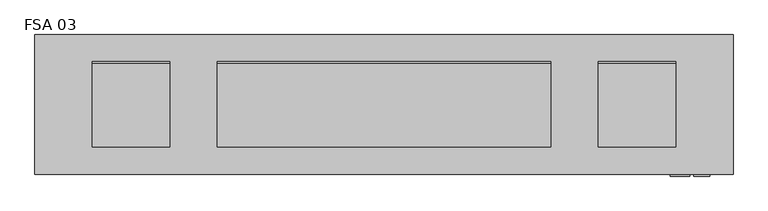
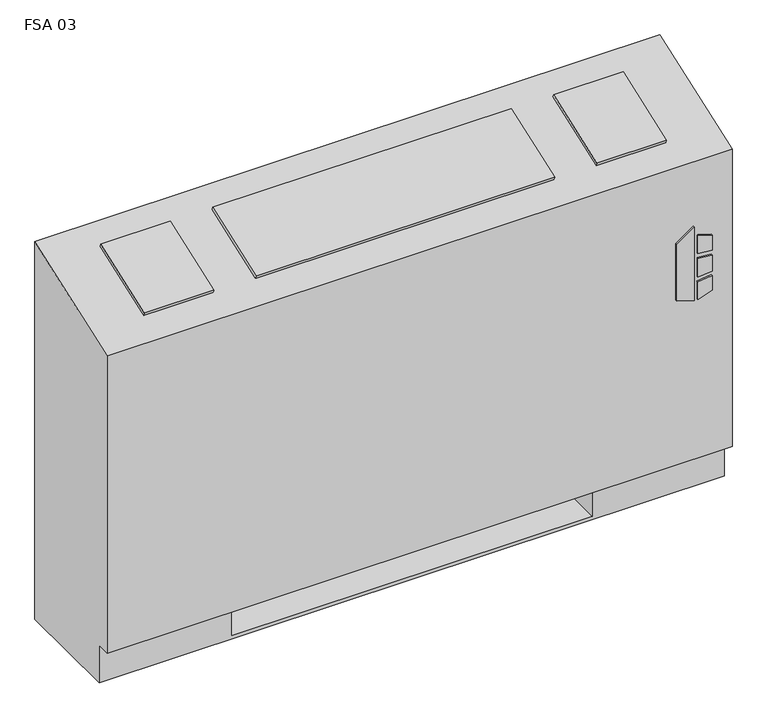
"""IFC4 building model written with IfcOpenShell, lengths in millimetres: proxy geometry, Vertical_Fan_Coil_Unit_-_FSA_-_IEC_-_4-Pipe_TS-FR_LH_2022 : FSA 03."""

from ifc_helpers import new_model, si_unit, point, frame, frame_2d, origin, place, context, project, spatial, polyline, circle_curve, trimmed, segment, composite_curve, outline, extrude, source, transform, mapped, element, save
from ifc_brep_helpers import plane_surface, revolved_surface, advanced_brep


def fsa_03_7127c263(model_context):
    return source(origin(), model_context, "Body", "SolidModel", [
        extrude(outline(polyline([(391.6086829, 620.7868862), (381.6606126, 652.9602728), (523.831537, 652.9602728), (500.8095309, 620.7868862), (391.6086829, 620.7868862)])), frame((0.0, 12.7, 0.0), z_axis=(0.0, 1.0, 0.0), x_axis=(0.0, 0.0, 1.0)), (0.0, 0.0, 1.0), 3.175),
        extrude(outline(polyline([(470.6079683, 659.7186058), (467.4055757, 685.8), (496.6344168, 685.8), (504.6988318, 659.7186058), (470.6079683, 659.7186058)])), frame((0.0, 12.7, 0.0), z_axis=(0.0, 1.0, 0.0), x_axis=(0.0, 0.0, 1.0)), (0.0, 0.0, 1.0), 3.175),
        extrude(outline(polyline([(418.7444414, 685.8), (415.0789404, 659.7186058), (381.6606126, 659.7186058), (390.2948498, 685.8), (418.7444414, 685.8)])), frame((0.0, 12.7, 0.0), z_axis=(0.0, 1.0, 0.0), x_axis=(0.0, 0.0, 1.0)), (0.0, 0.0, 1.0), 3.175),
        extrude(outline(polyline([(458.0596028, 685.8), (460.3414292, 659.7186058), (424.4038806, 659.7186058), (427.1451456, 685.8), (458.0596028, 685.8)])), frame((0.0, 12.7, 0.0), z_axis=(0.0, 1.0, 0.0), x_axis=(0.0, 0.0, 1.0)), (0.0, 0.0, 1.0), 3.175),
        extrude(outline(polyline([(603.25, 223.266), (603.25, 81.534), (482.6, 81.534), (482.6, 223.266), (603.25, 223.266)])), frame((0.0, 0.0, 327.025), z_axis=(0.0, 0.0, 1.0), x_axis=(1.0, 0.0, 0.0)), (0.0, 0.0, 1.0), 260.35),
        extrude(outline(composite_curve([segment(trimmed(circle_curve(frame_2d((-241.3, 130.175)), 9.525), [point((-250.825, 130.175))], [point((-231.775, 130.175))], False, "CARTESIAN"), True, "CONTINUOUS"), segment(trimmed(circle_curve(frame_2d((-241.3, 130.175)), 9.525), [point((-231.775, 130.175))], [point((-250.825, 130.175))], False, "CARTESIAN"), True, "CONTINUOUS")], self_intersect=False)), frame((0.0, 0.0, 101.6), z_axis=(0.0, 0.0, 1.0), x_axis=(1.0, 0.0, 0.0)), (0.0, 0.0, 1.0), 25.4),
        extrude(outline(polyline([(-342.9, 63.5), (-342.9, 196.85), (-177.8, 196.85), (-177.8, 63.5), (-342.9, 63.5)])), frame((0.0, 0.0, 127.0), z_axis=(0.0, 0.0, 1.0), x_axis=(1.0, 0.0, 0.0)), (0.0, 0.0, 1.0), 50.8),
        extrude(outline(polyline([(0.0, -146.0500001), (0.0, 0.0), (127.0, 0.0), (127.0, -146.0500001), (0.0, -146.0500001)])), frame((-324.993, 200.4217127, 714.3418685), z_axis=(0.0, -0.3396444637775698, 0.9405538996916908), x_axis=(1.0, 0.0, 0.0)), (0.0, 0.0, 1.0), 6.35),
        extrude(outline(polyline([(0.0, -146.0500001), (0.0, 0.0), (546.1, 0.0), (546.1, -146.0500001), (0.0, -146.0500001)])), frame((425.45, 63.0538156, 664.7367945), z_axis=(0.0, -0.33964446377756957, 0.9405538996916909), x_axis=(-1.0, 0.0, 0.0)), (0.0, 0.0, 1.0), 6.35),
        extrude(outline(polyline([(0.0, -146.0500001), (0.0, 0.0), (127.0, 0.0), (127.0, -146.0500001), (0.0, -146.0500001)])), frame((629.793, 63.0538156, 664.7367945), z_axis=(0.0, -0.3396444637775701, 0.9405538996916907), x_axis=(-1.0, 0.0, 0.0)), (0.0, 0.0, 1.0), 6.35),
        extrude(outline(composite_curve([segment(trimmed(circle_curve(frame_2d((117.475, 472.44)), 7.9375), [point((117.475, 480.3775))], [point((117.475, 464.5025))], False, "CARTESIAN"), True, "CONTINUOUS"), segment(trimmed(circle_curve(frame_2d((117.475, 472.44)), 7.9375), [point((117.475, 464.5025))], [point((117.475, 480.3775))], False, "CARTESIAN"), True, "CONTINUOUS")], self_intersect=False)), frame((-228.6, 0.0, 0.0), z_axis=(1.0, 0.0, 0.0), x_axis=(0.0, 1.0, 0.0)), (0.0, 0.0, 1.0), 50.8),
        extrude(outline(composite_curve([segment(trimmed(circle_curve(frame_2d((164.0586, 445.897)), 7.9375), [point((164.0586, 453.8345))], [point((164.0586, 437.9595))], False, "CARTESIAN"), True, "CONTINUOUS"), segment(trimmed(circle_curve(frame_2d((164.0586, 445.897)), 7.9375), [point((164.0586, 437.9595))], [point((164.0586, 453.8345))], False, "CARTESIAN"), True, "CONTINUOUS")], self_intersect=False)), frame((-228.6, 0.0, 0.0), z_axis=(1.0, 0.0, 0.0), x_axis=(0.0, 1.0, 0.0)), (0.0, 0.0, 1.0), 50.8),
        extrude(outline(composite_curve([segment(trimmed(circle_curve(frame_2d((130.175, 554.99)), 7.9502), [point((130.175, 562.9402))], [point((130.175, 547.0398))], False, "CARTESIAN"), True, "CONTINUOUS"), segment(trimmed(circle_curve(frame_2d((130.175, 554.99)), 7.9502), [point((130.175, 547.0398))], [point((130.175, 562.9402))], False, "CARTESIAN"), True, "CONTINUOUS")], self_intersect=False)), frame((-228.6, 0.0, 0.0), z_axis=(1.0, 0.0, 0.0), x_axis=(0.0, 1.0, 0.0)), (0.0, 0.0, 1.0), 50.8),
        extrude(outline(composite_curve([segment(trimmed(circle_curve(frame_2d((53.975, 416.56)), 7.9502), [point((53.975, 424.5102))], [point((53.975, 408.6098))], False, "CARTESIAN"), True, "CONTINUOUS"), segment(trimmed(circle_curve(frame_2d((53.975, 416.56)), 7.9502), [point((53.975, 408.6098))], [point((53.975, 424.5102))], False, "CARTESIAN"), True, "CONTINUOUS")], self_intersect=False)), frame((-228.6, 0.0, 0.0), z_axis=(1.0, 0.0, 0.0), x_axis=(0.0, 1.0, 0.0)), (0.0, 0.0, 1.0), 50.8),
        advanced_brep(
        [(-419.1, 244.475, 0.0), (723.9, 244.475, 0.0), (723.9, 41.275, 0.0), (-419.1, 41.275, 0.0), (-419.1, 244.475, 730.25), (723.9, 244.475, 730.25), (482.6, 244.475, 73.025), (711.2, 244.475, 73.025), (711.2, 244.475, 654.05), (482.6, 244.475, 654.05), (482.6, 244.475, 414.8650565), (511.175, 244.475, 414.8650565), (511.175, 244.475, 385.2349435), (482.6, 244.475, 385.2349435), (482.6, 244.475, 287.3375), (511.175, 244.475, 287.3375), (511.175, 244.475, 258.7625), (482.6, 244.475, 258.7625), (482.6, 244.475, 141.2875), (511.175, 244.475, 141.2875), (511.175, 244.475, 112.7125), (482.6, 244.475, 112.7125), (-177.8, 244.475, 654.05), (-406.4, 244.475, 654.05), (-406.4, 244.475, 73.025), (-177.8, 244.475, 73.025), (-177.8, 244.475, 112.7125), (-206.375, 244.475, 112.7125), (-206.375, 244.475, 141.2875), (-177.8, 244.475, 141.2875), (-177.8, 244.475, 258.7625), (-206.375, 244.475, 258.7625), (-206.375, 244.475, 287.3375), (-177.8, 244.475, 287.3375), (-177.8, 244.475, 385.2349435), (-206.375, 244.475, 385.2349435), (-206.375, 244.475, 414.8650565), (-177.8, 244.475, 414.8650565), (500.8626, 244.475, 127.0), (489.7374, 244.475, 127.0), (500.8626, 244.475, 400.05), (489.7374, 244.475, 400.05), (500.8626, 244.475, 273.05), (489.7374, 244.475, 273.05), (-184.9374, 244.475, 127.0), (-196.0626, 244.475, 127.0), (-184.9374, 244.475, 273.05), (-196.0626, 244.475, 273.05), (-184.9374, 244.475, 400.05), (-196.0626, 244.475, 400.05), (-419.1, 41.275, 73.025), (-419.1, 15.875, 73.025), (-419.1, 15.875, 647.7), (723.9, 15.875, 73.025), (723.9, 15.875, 647.7), (723.9, 41.275, 73.025), (-177.8, 41.275, 73.025), (-177.8, 225.425, 73.025), (482.6, 225.425, 73.025), (482.6, 41.275, 73.025), (482.6, 41.275, 6.35), (-177.8, 41.275, 6.35), (482.6, 41.275, 654.05), (711.2, 41.275, 654.05), (711.2, 41.275, 73.025), (482.6, 41.275, 73.025), (-177.8, 41.275, 654.05), (-177.8, 41.275, 73.025), (-406.4, 41.275, 73.025), (-406.4, 41.275, 654.05), (482.6, 225.425, 73.025), (482.6, 238.125, 112.7125), (482.6, 238.125, 141.2875), (482.6, 238.125, 258.7625), (482.6, 238.125, 287.3375), (482.6, 238.125, 385.2349435), (482.6, 238.125, 414.8650565), (-177.8, 225.425, 73.025), (-177.8, 238.125, 414.8650565), (-177.8, 238.125, 385.2349435), (-177.8, 238.125, 287.3375), (-177.8, 238.125, 258.7625), (-177.8, 238.125, 141.2875), (-177.8, 238.125, 112.7125), (-177.8, 225.425, 6.35), (482.6, 225.425, 6.35), (511.175, 238.125, 112.7125), (511.175, 238.125, 141.2875), (489.7374, 238.125, 127.0), (500.8626, 238.125, 127.0), (511.175, 238.125, 258.7625), (511.175, 238.125, 287.3375), (489.7374, 238.125, 273.05), (500.8626, 238.125, 273.05), (511.175, 238.125, 385.2349435), (511.175, 238.125, 414.8650565), (489.7374, 238.125, 400.05), (500.8626, 238.125, 400.05), (-206.375, 238.125, 141.2875), (-206.375, 238.125, 112.7125), (-196.0626, 238.125, 127.0), (-184.9374, 238.125, 127.0), (-206.375, 238.125, 287.3375), (-206.375, 238.125, 258.7625), (-196.0626, 238.125, 273.05), (-184.9374, 238.125, 273.05), (-206.375, 238.125, 414.8650565), (-206.375, 238.125, 385.2349435), (-196.0626, 238.125, 400.05), (-184.9374, 238.125, 400.05)],
        [
            (0, 1),
            (1, 2),
            (2, 3),
            (3, 0),
            (0, 4),
            (4, 5),
            (5, 1),
            (6, 7),
            (7, 8),
            (8, 9),
            (9, 10),
            (10, 11),
            (11, 12),
            (12, 13),
            (13, 14),
            (14, 15),
            (15, 16),
            (16, 17),
            (17, 18),
            (18, 19),
            (19, 20),
            (20, 21),
            (21, 6),
            (22, 23),
            (23, 24),
            (24, 25),
            (25, 26),
            (26, 27),
            (27, 28),
            (28, 29),
            (29, 30),
            (30, 31),
            (31, 32),
            (32, 33),
            (33, 34),
            (34, 35),
            (35, 36),
            (36, 37),
            (37, 22),
            (38, 39, circle_curve(frame((495.3, 244.475, 127.0), z_axis=(0.0, -1.0, 0.0), x_axis=(-1.0, 0.0, 0.0)), 5.5626)),
            (39, 38, circle_curve(frame((495.3, 244.475, 127.0), z_axis=(0.0, -1.0, 0.0), x_axis=(-1.0, 0.0, 0.0)), 5.5626)),
            (40, 41, circle_curve(frame((495.3, 244.475, 400.05), z_axis=(0.0, -1.0, 0.0), x_axis=(-1.0, 0.0, 0.0)), 5.5626)),
            (41, 40, circle_curve(frame((495.3, 244.475, 400.05), z_axis=(0.0, -1.0, 0.0), x_axis=(-1.0, 0.0, 0.0)), 5.5626)),
            (42, 43, circle_curve(frame((495.3, 244.475, 273.05), z_axis=(0.0, -1.0, 0.0), x_axis=(-1.0, 0.0, 0.0)), 5.5626)),
            (43, 42, circle_curve(frame((495.3, 244.475, 273.05), z_axis=(0.0, -1.0, 0.0), x_axis=(-1.0, 0.0, 0.0)), 5.5626)),
            (44, 45, circle_curve(frame((-190.5, 244.475, 127.0), z_axis=(0.0, -1.0, 0.0), x_axis=(-1.0, 0.0, 0.0)), 5.5626)),
            (45, 44, circle_curve(frame((-190.5, 244.475, 127.0), z_axis=(0.0, -1.0, 0.0), x_axis=(-1.0, 0.0, 0.0)), 5.5626)),
            (46, 47, circle_curve(frame((-190.5, 244.475, 273.05), z_axis=(0.0, -1.0, 0.0), x_axis=(-1.0, 0.0, 0.0)), 5.5626)),
            (47, 46, circle_curve(frame((-190.5, 244.475, 273.05), z_axis=(0.0, -1.0, 0.0), x_axis=(-1.0, 0.0, 0.0)), 5.5626)),
            (48, 49, circle_curve(frame((-190.5, 244.475, 400.05), z_axis=(0.0, -1.0, 0.0), x_axis=(-1.0, 0.0, 0.0)), 5.5626)),
            (49, 48, circle_curve(frame((-190.5, 244.475, 400.05), z_axis=(0.0, -1.0, 0.0), x_axis=(-1.0, 0.0, 0.0)), 5.5626)),
            (3, 50),
            (50, 51),
            (51, 52),
            (52, 4),
            (51, 53),
            (53, 54),
            (54, 52),
            (5, 54),
            (53, 55),
            (55, 2),
            (50, 56),
            (56, 57),
            (57, 58),
            (58, 59),
            (59, 55),
            (59, 60),
            (60, 61),
            (61, 56),
            (62, 63),
            (63, 64),
            (64, 65),
            (65, 62),
            (66, 67),
            (67, 68),
            (68, 69),
            (69, 66),
            (65, 70),
            (70, 6),
            (21, 71),
            (71, 72),
            (72, 18),
            (17, 73),
            (73, 74),
            (74, 14),
            (13, 75),
            (75, 76),
            (76, 10),
            (9, 62),
            (64, 7),
            (63, 8),
            (69, 23),
            (22, 66),
            (68, 24),
            (67, 77),
            (77, 25),
            (37, 78),
            (78, 79),
            (79, 34),
            (33, 80),
            (80, 81),
            (81, 30),
            (29, 82),
            (82, 83),
            (83, 26),
            (57, 84),
            (84, 85),
            (85, 58),
            (85, 60),
            (84, 61),
            (71, 86),
            (86, 87),
            (87, 72),
            (88, 89, circle_curve(frame((495.3, 238.125, 127.0), z_axis=(0.0, 1.0, 0.0), x_axis=(-1.0, 0.0, 0.0)), 5.5626)),
            (89, 88, circle_curve(frame((495.3, 238.125, 127.0), z_axis=(0.0, 1.0, 0.0), x_axis=(-1.0, 0.0, 0.0)), 5.5626)),
            (73, 90),
            (90, 91),
            (91, 74),
            (92, 93, circle_curve(frame((495.3, 238.125, 273.05), z_axis=(0.0, 1.0, 0.0), x_axis=(-1.0, 0.0, 0.0)), 5.5626)),
            (93, 92, circle_curve(frame((495.3, 238.125, 273.05), z_axis=(0.0, 1.0, 0.0), x_axis=(-1.0, 0.0, 0.0)), 5.5626)),
            (75, 94),
            (94, 95),
            (95, 76),
            (96, 97, circle_curve(frame((495.3, 238.125, 400.05), z_axis=(0.0, 1.0, 0.0), x_axis=(-1.0, 0.0, 0.0)), 5.5626)),
            (97, 96, circle_curve(frame((495.3, 238.125, 400.05), z_axis=(0.0, 1.0, 0.0), x_axis=(-1.0, 0.0, 0.0)), 5.5626)),
            (98, 99),
            (99, 83),
            (82, 98),
            (100, 101, circle_curve(frame((-190.5, 238.125, 127.0), z_axis=(0.0, 1.0, 0.0), x_axis=(-1.0, 0.0, 0.0)), 5.5626)),
            (101, 100, circle_curve(frame((-190.5, 238.125, 127.0), z_axis=(0.0, 1.0, 0.0), x_axis=(-1.0, 0.0, 0.0)), 5.5626)),
            (102, 103),
            (103, 81),
            (80, 102),
            (104, 105, circle_curve(frame((-190.5, 238.125, 273.05), z_axis=(0.0, 1.0, 0.0), x_axis=(-1.0, 0.0, 0.0)), 5.5626)),
            (105, 104, circle_curve(frame((-190.5, 238.125, 273.05), z_axis=(0.0, 1.0, 0.0), x_axis=(-1.0, 0.0, 0.0)), 5.5626)),
            (106, 107),
            (107, 79),
            (78, 106),
            (108, 109, circle_curve(frame((-190.5, 238.125, 400.05), z_axis=(0.0, 1.0, 0.0), x_axis=(-1.0, 0.0, 0.0)), 5.5626)),
            (109, 108, circle_curve(frame((-190.5, 238.125, 400.05), z_axis=(0.0, 1.0, 0.0), x_axis=(-1.0, 0.0, 0.0)), 5.5626)),
            (87, 19),
            (86, 20),
            (91, 15),
            (90, 16),
            (95, 11),
            (94, 12),
            (28, 98),
            (99, 27),
            (32, 102),
            (103, 31),
            (36, 106),
            (107, 35),
            (88, 39),
            (38, 89),
            (96, 41),
            (40, 97),
            (92, 43),
            (42, 93),
            (100, 45),
            (44, 101),
            (104, 47),
            (46, 105),
            (108, 49),
            (48, 109),
        ],
        [
            plane_surface(frame((-419.1, 244.475, 0.0), z_axis=(0.0, 0.0, -1.0), x_axis=(1.0, 0.0, 0.0))),
            plane_surface(frame((723.9, 244.475, 730.25), z_axis=(0.0, 1.0, 0.0), x_axis=(0.0, 0.0, -1.0))),
            plane_surface(frame((-419.1, 244.475, 730.25), z_axis=(-1.0, 0.0, 0.0), x_axis=(0.0, 0.0, -1.0))),
            plane_surface(frame((-419.1, 15.875, 730.25), z_axis=(0.0, -1.0, 0.0), x_axis=(0.0, 0.0, -1.0))),
            plane_surface(frame((723.9, 15.875, 730.25), z_axis=(1.0, 0.0, 0.0), x_axis=(0.0, 0.0, -1.0))),
            plane_surface(frame((-419.1, 15.875, 73.025), z_axis=(0.0, 0.0, -1.0), x_axis=(1.0, 0.0, 0.0))),
            plane_surface(frame((-419.1, 41.275, 73.025), z_axis=(0.0, -1.0, 0.0), x_axis=(1.0, 0.0, 0.0))),
            plane_surface(frame((482.6, 41.275, 654.05), z_axis=(0.0, 1.0, 0.0), x_axis=(0.0, 0.0, -1.0))),
            plane_surface(frame((482.6, 41.275, 654.05), z_axis=(1.0, 0.0, 0.0), x_axis=(0.0, 1.0, 0.0))),
            plane_surface(frame((482.6, 41.275, 73.025), z_axis=(0.0, 0.0, 1.0), x_axis=(0.0, 1.0, 0.0))),
            plane_surface(frame((711.2, 41.275, 73.025), z_axis=(-1.0, 0.0, 0.0), x_axis=(0.0, 1.0, 0.0))),
            plane_surface(frame((711.2, 41.275, 654.05), z_axis=(0.0, 0.0, -1.0), x_axis=(0.0, 1.0, 0.0))),
            plane_surface(frame((-177.8, 41.275, 654.05), z_axis=(0.0, 0.0, -1.0), x_axis=(0.0, 1.0, 0.0))),
            plane_surface(frame((-406.4, 41.275, 654.05), z_axis=(1.0, 0.0, 0.0), x_axis=(0.0, 1.0, 0.0))),
            plane_surface(frame((-406.4, 41.275, 73.025), z_axis=(0.0, 0.0, 1.0), x_axis=(0.0, 1.0, 0.0))),
            plane_surface(frame((-177.8, 41.275, 73.025), z_axis=(-1.0, 0.0, 0.0), x_axis=(0.0, 1.0, 0.0))),
            plane_surface(frame((482.6, 225.425, 73.025), z_axis=(0.0, -1.0, 0.0), x_axis=(0.0, 0.0, -1.0))),
            plane_surface(frame((482.6, 225.425, 73.025), z_axis=(-1.0, 0.0, 0.0), x_axis=(0.0, -1.0, 0.0))),
            plane_surface(frame((482.6, 225.425, 6.35), z_axis=(0.0, 0.0, 1.0), x_axis=(0.0, -1.0, 0.0))),
            plane_surface(frame((-177.8, 225.425, 6.35), z_axis=(1.0, 0.0, 0.0), x_axis=(0.0, -1.0, 0.0))),
            plane_surface(frame((511.175, 238.125, 141.2875), z_axis=(0.0, -1.0, 0.0), x_axis=(-1.0, 0.0, 0.0))),
            plane_surface(frame((482.6, 244.475, 141.2875), z_axis=(0.0, 0.0, 1.0), x_axis=(0.0, -1.0, 0.0))),
            plane_surface(frame((511.175, 244.475, 141.2875), z_axis=(1.0, 0.0, 0.0), x_axis=(0.0, -1.0, 0.0))),
            plane_surface(frame((511.175, 244.475, 112.7125), z_axis=(0.0, 0.0, -1.0), x_axis=(0.0, -1.0, 0.0))),
            plane_surface(frame((482.6, 244.475, 287.3375), z_axis=(0.0, 0.0, 1.0), x_axis=(0.0, -1.0, 0.0))),
            plane_surface(frame((511.175, 244.475, 287.3375), z_axis=(1.0, 0.0, 0.0), x_axis=(0.0, -1.0, 0.0))),
            plane_surface(frame((511.175, 244.475, 258.7625), z_axis=(0.0, 0.0, -1.0), x_axis=(0.0, -1.0, 0.0))),
            plane_surface(frame((482.6, 244.475, 414.8650565), z_axis=(0.0, 0.0, 1.0), x_axis=(0.0, -1.0, 0.0))),
            plane_surface(frame((511.175, 244.475, 414.8650565), z_axis=(1.0, 0.0, 0.0), x_axis=(0.0, -1.0, 0.0))),
            plane_surface(frame((511.175, 244.475, 385.2349435), z_axis=(0.0, 0.0, -1.0), x_axis=(0.0, -1.0, 0.0))),
            plane_surface(frame((-206.375, 244.475, 141.2875), z_axis=(0.0, 0.0, 1.0), x_axis=(0.0, -1.0, 0.0))),
            plane_surface(frame((-177.8, 244.475, 112.7125), z_axis=(0.0, 0.0, -1.0), x_axis=(0.0, -1.0, 0.0))),
            plane_surface(frame((-206.375, 244.475, 112.7125), z_axis=(-1.0, 0.0, 0.0), x_axis=(0.0, -1.0, 0.0))),
            plane_surface(frame((-206.375, 244.475, 287.3375), z_axis=(0.0, 0.0, 1.0), x_axis=(0.0, -1.0, 0.0))),
            plane_surface(frame((-177.8, 244.475, 258.7625), z_axis=(0.0, 0.0, -1.0), x_axis=(0.0, -1.0, 0.0))),
            plane_surface(frame((-206.375, 244.475, 258.7625), z_axis=(-1.0, 0.0, 0.0), x_axis=(0.0, -1.0, 0.0))),
            plane_surface(frame((-206.375, 244.475, 414.8650565), z_axis=(0.0, 0.0, 1.0), x_axis=(0.0, -1.0, 0.0))),
            plane_surface(frame((-177.8, 244.475, 385.2349435), z_axis=(0.0, 0.0, -1.0), x_axis=(0.0, -1.0, 0.0))),
            plane_surface(frame((-206.375, 244.475, 385.2349435), z_axis=(-1.0, 0.0, 0.0), x_axis=(0.0, -1.0, 0.0))),
            revolved_surface(polyline([(489.73740000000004, 238.125, 127.0), (489.73740000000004, 244.475, 127.0)]), (495.3, 244.475, 127.0), (0.0, -1.0, 0.0)),
            revolved_surface(polyline([(489.73740000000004, 238.125, 400.05), (489.73740000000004, 244.475, 400.05)]), (495.3, 244.475, 400.05), (0.0, -1.0, 0.0)),
            revolved_surface(polyline([(489.73740000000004, 238.125, 273.05), (489.73740000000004, 244.475, 273.05)]), (495.3, 244.475, 273.05), (0.0, -1.0, 0.0)),
            revolved_surface(polyline([(-196.0626, 238.125, 127.0), (-196.0626, 244.475, 127.0)]), (-190.5, 244.475, 127.0), (0.0, -1.0, 0.0)),
            revolved_surface(polyline([(-196.0626, 238.125, 273.05), (-196.0626, 244.475, 273.05)]), (-190.5, 244.475, 273.05), (0.0, -1.0, 0.0)),
            revolved_surface(polyline([(-196.0626, 238.125, 400.05), (-196.0626, 244.475, 400.05)]), (-190.5, 244.475, 400.05), (0.0, -1.0, 0.0)),
            plane_surface(frame((-419.1, 244.475, 730.25), z_axis=(0.0, -0.33964446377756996, 0.9405538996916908), x_axis=(1.0, 0.0, 0.0))),
        ],
        [
            (0, [[1, 2, 3, 4]]),
            (1, [[-1, 5, 6, 7], [8, 9, 10, 11, 12, 13, 14, 15, 16, 17, 18, 19, 20, 21, 22, 23], [24, 25, 26, 27, 28, 29, 30, 31, 32, 33, 34, 35, 36, 37, 38, 39], [40, 41], [42, 43], [44, 45], [46, 47], [48, 49], [50, 51]]),
            (2, [[-5, -4, 52, 53, 54, 55]]),
            (3, [[56, 57, 58, -54]]),
            (4, [[-7, 59, -57, 60, 61, -2]]),
            (5, [[-53, 62, 63, 64, 65, 66, -60, -56]]),
            (6, [[-3, -61, -66, 67, 68, 69, -62, -52]]),
            (7, [[70, 71, 72, 73]]),
            (7, [[74, 75, 76, 77]]),
            (8, [[-73, 78, 79, -23, 80, 81, 82, -19, 83, 84, 85, -15, 86, 87, 88, -11, 89]]),
            (9, [[-72, 90, -8, -79, -78]]),
            (10, [[-71, 91, -9, -90]]),
            (11, [[-70, -89, -10, -91]]),
            (12, [[-77, 92, -24, 93]]),
            (13, [[-76, 94, -25, -92]]),
            (14, [[-75, 95, 96, -26, -94]]),
            (15, [[-74, -93, -39, 97, 98, 99, -35, 100, 101, 102, -31, 103, 104, 105, -27, -96, -95]]),
            (16, [[-64, 106, 107, 108]]),
            (17, [[-108, 109, -67, -65]]),
            (18, [[-107, 110, -68, -109]]),
            (19, [[-106, -63, -69, -110]]),
            (20, [[111, 112, 113, -81], [114, 115]]),
            (20, [[116, 117, 118, -84], [119, 120]]),
            (20, [[121, 122, 123, -87], [124, 125]]),
            (20, [[126, 127, -104, 128], [129, 130]]),
            (20, [[131, 132, -101, 133], [134, 135]]),
            (20, [[136, 137, -98, 138], [139, 140]]),
            (21, [[-113, 141, -20, -82]]),
            (22, [[-112, 142, -21, -141]]),
            (23, [[-111, -80, -22, -142]]),
            (24, [[-118, 143, -16, -85]]),
            (25, [[-117, 144, -17, -143]]),
            (26, [[-116, -83, -18, -144]]),
            (27, [[-123, 145, -12, -88]]),
            (28, [[-122, 146, -13, -145]]),
            (29, [[-121, -86, -14, -146]]),
            (30, [[-128, -103, -30, 147]]),
            (31, [[-127, 148, -28, -105]]),
            (32, [[-126, -147, -29, -148]]),
            (33, [[-133, -100, -34, 149]]),
            (34, [[-132, 150, -32, -102]]),
            (35, [[-131, -149, -33, -150]]),
            (36, [[-138, -97, -38, 151]]),
            (37, [[-137, 152, -36, -99]]),
            (38, [[-136, -151, -37, -152]]),
            (39, [[153, -40, 154, -114]]),
            (39, [[-153, -115, -154, -41]]),
            (40, [[155, -42, 156, -124]]),
            (40, [[-155, -125, -156, -43]]),
            (41, [[157, -44, 158, -119]]),
            (41, [[-157, -120, -158, -45]]),
            (42, [[159, -46, 160, -129]]),
            (42, [[-159, -130, -160, -47]]),
            (43, [[161, -48, 162, -134]]),
            (43, [[-161, -135, -162, -49]]),
            (44, [[163, -50, 164, -139]]),
            (44, [[-163, -140, -164, -51]]),
            (45, [[-6, -55, -58, -59]]),
        ],
    ),
    ])


if __name__ == "__main__":
    model = new_model("IFC4")
    model_context = context("Model", 3, world=origin())
    ifc_project = project(units=[si_unit("LENGTHUNIT", "METRE", prefix="MILLI")], contexts=[model_context])
    site = spatial("IfcSite", under=ifc_project)
    building = spatial("IfcBuilding", under=site)
    placement = place(None, origin())
    fsa_03_shape = fsa_03_7127c263(model_context)
    element("IfcBuildingElementProxy", 1, Name="Vertical_Fan_Coil_Unit_-_FSA_-_IEC_-_4-Pipe_TS-FR_LH_2022 : FSA 03", ObjectType="Vertical_Fan_Coil_Unit_-_FSA_-_IEC_-_4-Pipe_TS-FR_LH_2022 : FSA 03", at=placement, inside=building, context=model_context, shape_type="MappedRepresentation", body=[
        mapped(fsa_03_shape, transform((0.0, 0.0, 0.0), x_axis=(1.0, 0.0, 0.0), y_axis=(0.0, 1.0, 0.0), z_axis=(0.0, 0.0, 1.0))),
    ])
    save(model, "model.ifc")
